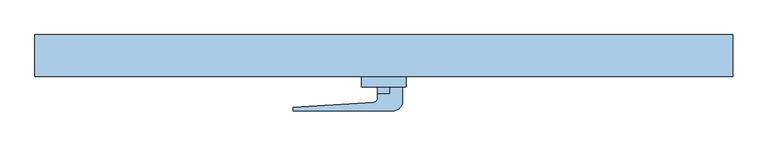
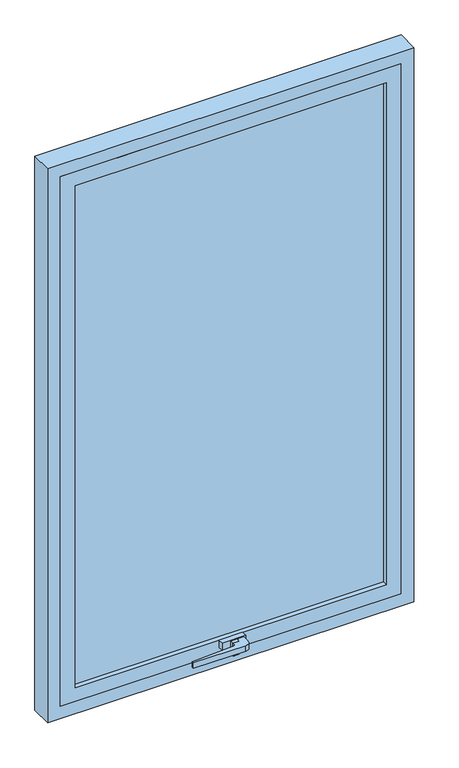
"""IFC4 building model written with IfcOpenShell, lengths in millimetres: window geometry, Janela maxim-ar - 1 Painel : J11 - Janela maxim-ar - 1 Painel."""

from ifc_helpers import new_model, si_unit, point, frame, frame_2d, origin, place, context, project, spatial, polyline, circle_curve, trimmed, segment, composite_curve, outline, extrude, source, transform, mapped, element, save


def window_d016f1b2(model_context):
    return source(origin(), model_context, "Body", "SweptSolid", [
        extrude(outline(composite_curve([segment(polyline([(9.0, -100.0), (9.0, -90.0), (27.0, -90.0), (27.0, -110.0)]), True, "CONTINUOUS"), segment(trimmed(circle_curve(frame_2d((13.0, -110.0)), 14.0), [point((27.0, -110.0))], [point((13.0, -124.0))], False, "CARTESIAN"), True, "CONTINUOUS"), segment(polyline([(13.0, -124.0), (-130.0, -124.0), (-130.0, -119.0), (-14.6705919, -111.9888756)]), True, "CONTINUOUS"), segment(trimmed(circle_curve(frame_2d((-15.0369126, -105.9630874)), 6.0369126), [point((-14.6705919, -111.9888756))], [point((-9.0, -105.9630874))], True, "CARTESIAN"), True, "CONTINUOUS"), segment(polyline([(-9.0, -105.9630874), (-9.0, -100.0), (9.0, -100.0)]), True, "CONTINUOUS")], self_intersect=False)), frame((0.0, 0.0, 707.0), z_axis=(0.0, 0.0, 1.0), x_axis=(1.0, 0.0, 0.0)), (0.0, 0.0, 1.0), 16.0),
        extrude(outline(polyline([(723.0, 9.0), (723.0, -9.0), (703.0135985, -9.0), (685.0, -6.9842809), (685.0, 7.0348924), (703.0135985, 9.0), (723.0, 9.0)])), frame((0.0, -100.0, 0.0), z_axis=(0.0, 1.0, 0.0), x_axis=(0.0, 0.0, 1.0)), (0.0, 0.0, 1.0), 10.0),
        extrude(outline(polyline([(32.0, -90.0), (-32.0, -90.0), (-32.0, -75.0), (32.0, -75.0), (32.0, -90.0)])), frame((0.0, 0.0, 705.0), z_axis=(0.0, 0.0, 1.0), x_axis=(1.0, 0.0, 0.0)), (0.0, 0.0, 1.0), 20.0),
        extrude(outline(polyline([(425.0, -48.0), (425.0, -62.0), (-425.0, -62.0), (-425.0, -48.0), (425.0, -48.0)])), frame((0.0, 0.0, 725.0), z_axis=(0.0, 0.0, 1.0), x_axis=(1.0, 0.0, 0.0)), (0.0, 0.0, 1.0), 1450.0),
        extrude(outline(polyline([(685.0, -465.0), (685.0, 465.0), (2215.0, 465.0), (2215.0, -465.0), (685.0, -465.0)]), holes=[polyline([(2175.0, -425.0), (2175.0, 425.0), (725.0, 425.0), (725.0, -425.0), (2175.0, -425.0)])]), frame((0.0, -75.0, 0.0), z_axis=(0.0, 1.0, 0.0), x_axis=(0.0, 0.0, 1.0)), (0.0, 0.0, 1.0), 40.0),
        extrude(outline(polyline([(650.0, -500.0), (650.0, 500.0), (2250.0, 500.0), (2250.0, -500.0), (650.0, -500.0)]), holes=[polyline([(2215.0, -465.0), (2215.0, 465.0), (685.0, 465.0), (685.0, -465.0), (2215.0, -465.0)])]), frame((0.0, -75.0, 0.0), z_axis=(0.0, 1.0, 0.0), x_axis=(0.0, 0.0, 1.0)), (0.0, 0.0, 1.0), 60.0),
    ])


if __name__ == "__main__":
    model = new_model("IFC4")
    model_context = context("Model", 3, world=origin())
    ifc_project = project(units=[si_unit("LENGTHUNIT", "METRE", prefix="MILLI")], contexts=[model_context])
    site = spatial("IfcSite", under=ifc_project)
    building = spatial("IfcBuilding", under=site)
    placement = place(None, origin())
    window_shape = window_d016f1b2(model_context)
    element("IfcWindow", 1, ObjectType="Janela maxim-ar - 1 Painel : J11 - Janela maxim-ar - 1 Painel", at=placement, inside=building, context=model_context, shape_type="MappedRepresentation", body=[
        mapped(window_shape, transform((0.0, 0.0, 0.0), x_axis=(1.0, 0.0, 0.0), y_axis=(0.0, 1.0, 0.0), z_axis=(0.0, 0.0, 1.0))),
    ])
    save(model, "model.ifc")
